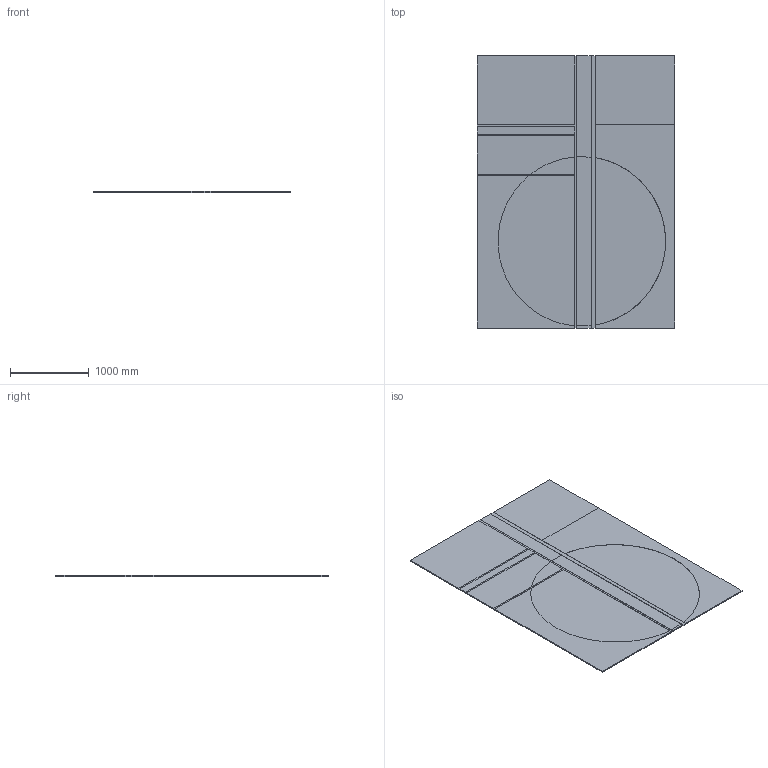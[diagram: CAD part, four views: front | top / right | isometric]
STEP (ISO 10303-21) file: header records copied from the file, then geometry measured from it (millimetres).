
FILE_DESCRIPTION(/* description */ (''),/* implementation_level */ '2;1');
FILE_NAME(/* name */ 'DeStjil-Rug_250x345_3DL_JS_20231010',/* time_stamp */ '2023-10-11T11:58:34+02:00',/* author */ (''),/* organization */ (''),/* preprocessor_version */ 'ST-DEVELOPER v16.5',/* originating_system */ 'Rhino 7.33',/* authorisation */ '');
FILE_SCHEMA (('CONFIG_CONTROL_DESIGN'));
Length unit declared in the file: millimetre
Products named in the file (1): Document
Bounding box: 2500 x 3450 x 13.64 mm (x, y, z)
Volume: 117629360.2 mm3; surface area: 18201034.5 mm2
Topology: 14 solids, 14 shells, 105 faces, 231 edges, 154 vertices
Faces by surface type: plane 92, bspline 13
Entity records: 2619 total; most frequent: CARTESIAN_POINT 864, ORIENTED_EDGE 462, EDGE_CURVE 231, B_SPLINE_CURVE_WITH_KNOTS 199, VERTEX_POINT 154, ADVANCED_FACE 105, FACE_OUTER_BOUND 105, EDGE_LOOP 105
